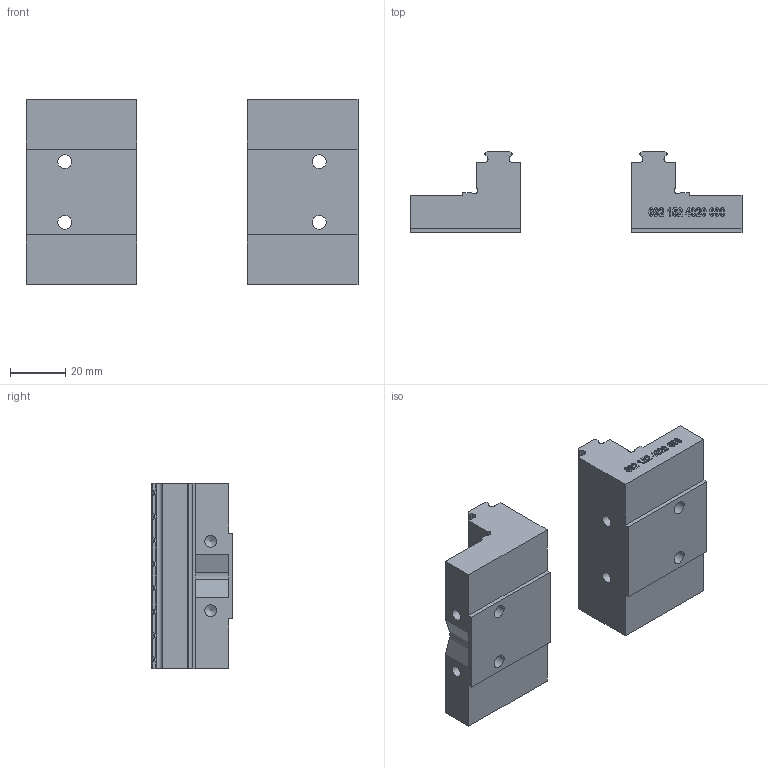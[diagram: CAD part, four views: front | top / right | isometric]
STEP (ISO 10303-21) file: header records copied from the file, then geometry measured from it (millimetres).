
FILE_DESCRIPTION (( 'STEP AP214' ), '1' );
FILE_NAME ('3D-6921524010031.STEP', '2023-12-04T09:45:26', ( '' ), ( '' ), 'SwSTEP 2.0', 'SolidWorks 2021', '' );
FILE_SCHEMA (( 'AUTOMOTIVE_DESIGN' ));
Length unit declared in the file: millimetre
Products named in the file (3): 3D-6921524010031; 3D-6921524010000; 3D-6921524020000
Assembly tree (2 placements, depth 2):
  3D-6921524010031
    3D-6921524010000
    3D-6921524020000
Bounding box: 120 x 29.5 x 67 mm (x, y, z)
Volume: 95897.1 mm3; surface area: 23620.4 mm2
Topology: 2 solids, 2 shells, 547 faces, 1486 edges, 986 vertices
Faces by surface type: plane 254, bspline 197, cylinder 84, cone 12
Full cylindrical faces by diameter (mm): 4.2 x8, 5 x4
Entity records: 28468 total; most frequent: CARTESIAN_POINT 16197, ORIENTED_EDGE 2900, DIRECTION 1682, EDGE_CURVE 1450, VERTEX_POINT 974, VECTOR 884, LINE 884, EDGE_LOOP 622
